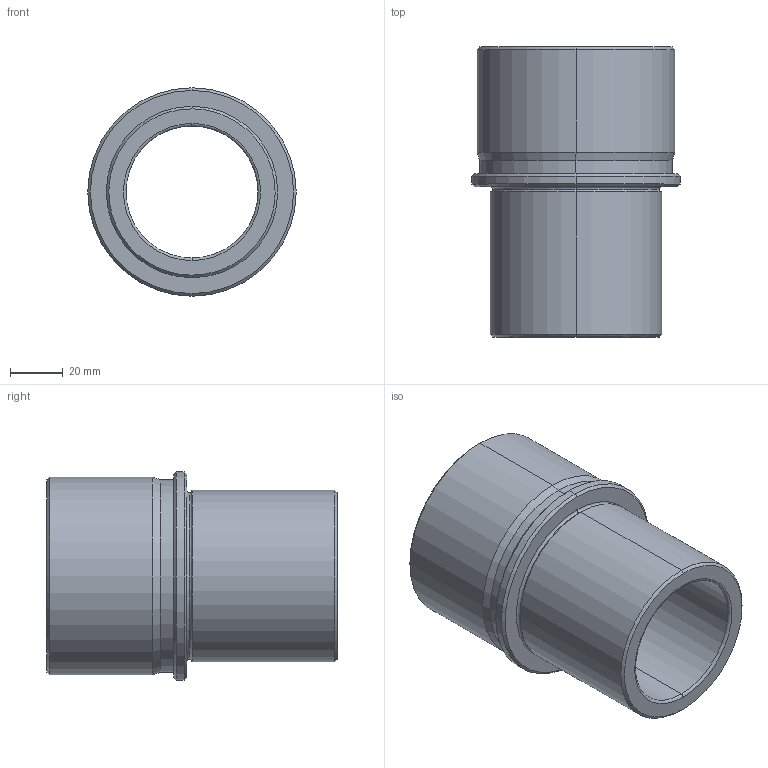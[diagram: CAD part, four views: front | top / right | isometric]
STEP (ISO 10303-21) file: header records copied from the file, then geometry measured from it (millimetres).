
FILE_DESCRIPTION(('CATIA V5 STEP Exchange'),'2;1');
FILE_NAME('C:\Users\Utente\Desktop\IO LAVORO\3D X SITO CF\X SITO\CF 450\CF 450 50x110.stp','2020-12-27T17:51:50+00:00',('none'),('none'),'CATIA Version 5 Release 20 GA (IN-10)','CATIA V5 STEP AP203','none');
FILE_SCHEMA(('CONFIG_CONTROL_DESIGN'));
Length unit declared in the file: millimetre
Products named in the file (1): CF 450 50x110
Bounding box: 79 x 110 x 79 mm (x, y, z)
Volume: 207363.7 mm3; surface area: 47107.7 mm2
Topology: 1 solids, 1 shells, 32 faces, 98 edges, 70 vertices
Faces by surface type: cone 10, cylinder 10, torus 8, plane 4
Entity records: 1188 total; most frequent: CARTESIAN_POINT 257, ORIENTED_EDGE 196, DIRECTION 158, AXIS2_PLACEMENT_3D 107, EDGE_CURVE 98, CIRCLE 74, VERTEX_POINT 70, EDGE_LOOP 36
